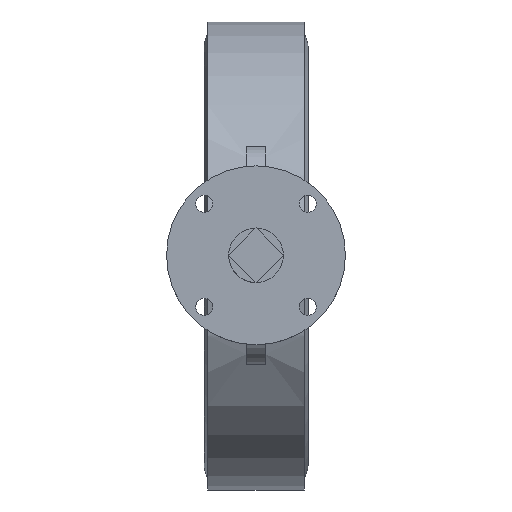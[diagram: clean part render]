
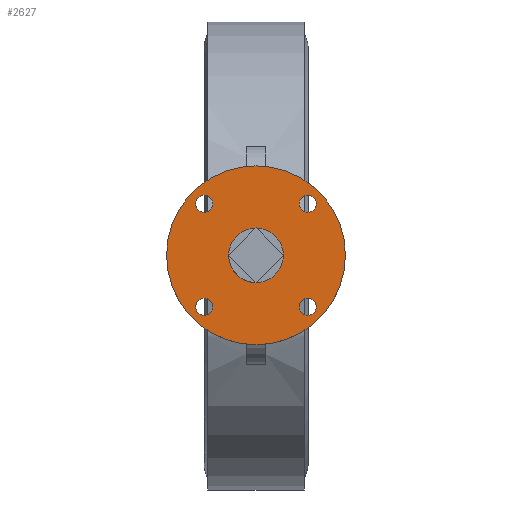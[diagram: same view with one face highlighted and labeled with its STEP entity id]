
A CAD part, top view. The second image highlights one B-rep face of the part: STEP entity #2627.
In plain terms, the highlighted planar face has unit normal (0, 0, 1).
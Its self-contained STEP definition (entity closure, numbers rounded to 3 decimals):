
#2627=ADVANCED_FACE('',(#5686,#5688,#5690,#5692,#5694,#5696),#5698,.T.);
#5686=FACE_BOUND('',#5687,.T.);
#5687=EDGE_LOOP('',(#8694));
#5688=FACE_BOUND('',#5689,.T.);
#5689=EDGE_LOOP('',(#8695));
#5690=FACE_BOUND('',#5691,.T.);
#5691=EDGE_LOOP('',(#8696));
#5692=FACE_BOUND('',#5693,.T.);
#5693=EDGE_LOOP('',(#8697));
#5694=FACE_BOUND('',#5695,.T.);
#5695=EDGE_LOOP('',(#8698));
#5696=FACE_BOUND('',#5697,.T.);
#5697=EDGE_LOOP('',(#8699));
#5698=PLANE('',#5699);
#5699=AXIS2_PLACEMENT_3D('',#5700,#5701,#5702);
#5700=CARTESIAN_POINT('',(0.,0.,282.));
#5701=DIRECTION('',(0.,0.,1.));
#5702=DIRECTION('',(0.,-1.,0.));
#8694=ORIENTED_EDGE('',*,*,#10058,.T.);
#8695=ORIENTED_EDGE('',*,*,#10121,.T.);
#8696=ORIENTED_EDGE('',*,*,#10059,.T.);
#8697=ORIENTED_EDGE('',*,*,#10060,.T.);
#8698=ORIENTED_EDGE('',*,*,#10061,.T.);
#8699=ORIENTED_EDGE('',*,*,#10062,.T.);
#10058=EDGE_CURVE('',#11748,#11748,#11749,.T.);
#10059=EDGE_CURVE('',#11750,#11750,#11751,.F.);
#10060=EDGE_CURVE('',#11752,#11752,#11753,.F.);
#10061=EDGE_CURVE('',#11754,#11754,#11755,.F.);
#10062=EDGE_CURVE('',#11756,#11756,#11757,.F.);
#10121=EDGE_CURVE('',#11855,#11855,#11856,.F.);
#11748=VERTEX_POINT('',#16176);
#11749=CIRCLE('',#16177,62.5);
#11750=VERTEX_POINT('',#16181);
#11751=CIRCLE('',#16182,6.);
#11752=VERTEX_POINT('',#16186);
#11753=CIRCLE('',#16187,6.);
#11754=VERTEX_POINT('',#16191);
#11755=CIRCLE('',#16192,6.);
#11756=VERTEX_POINT('',#16196);
#11757=CIRCLE('',#16197,6.);
#11855=VERTEX_POINT('',#16540);
#11856=CIRCLE('',#16541,19.092);
#16176=CARTESIAN_POINT('',(-62.5,0.,282.));
#16177=AXIS2_PLACEMENT_3D('',#16178,#16179,#16180);
#16178=CARTESIAN_POINT('',(0.,0.,282.));
#16179=DIRECTION('',(0.,0.,1.));
#16180=DIRECTION('',(-1.,0.,0.));
#16181=CARTESIAN_POINT('',(-42.062,-36.062,282.));
#16182=AXIS2_PLACEMENT_3D('',#16183,#16184,#16185);
#16183=CARTESIAN_POINT('',(-36.062,-36.062,282.));
#16184=DIRECTION('',(0.,0.,1.));
#16185=DIRECTION('',(-1.,0.,0.));
#16186=CARTESIAN_POINT('',(36.062,-42.062,282.));
#16187=AXIS2_PLACEMENT_3D('',#16188,#16189,#16190);
#16188=CARTESIAN_POINT('',(36.062,-36.062,282.));
#16189=DIRECTION('',(0.,0.,1.));
#16190=DIRECTION('',(0.,-1.,0.));
#16191=CARTESIAN_POINT('',(42.062,36.062,282.));
#16192=AXIS2_PLACEMENT_3D('',#16193,#16194,#16195);
#16193=CARTESIAN_POINT('',(36.062,36.062,282.));
#16194=DIRECTION('',(0.,0.,1.));
#16195=DIRECTION('',(1.,0.,0.));
#16196=CARTESIAN_POINT('',(-36.062,42.062,282.));
#16197=AXIS2_PLACEMENT_3D('',#16198,#16199,#16200);
#16198=CARTESIAN_POINT('',(-36.062,36.062,282.));
#16199=DIRECTION('',(0.,0.,1.));
#16200=DIRECTION('',(0.,1.,0.));
#16540=CARTESIAN_POINT('',(0.,-19.092,282.));
#16541=AXIS2_PLACEMENT_3D('',#16542,#16543,#16544);
#16542=CARTESIAN_POINT('',(0.,0.,282.));
#16543=DIRECTION('',(0.,0.,1.));
#16544=DIRECTION('',(0.,-1.,0.));
